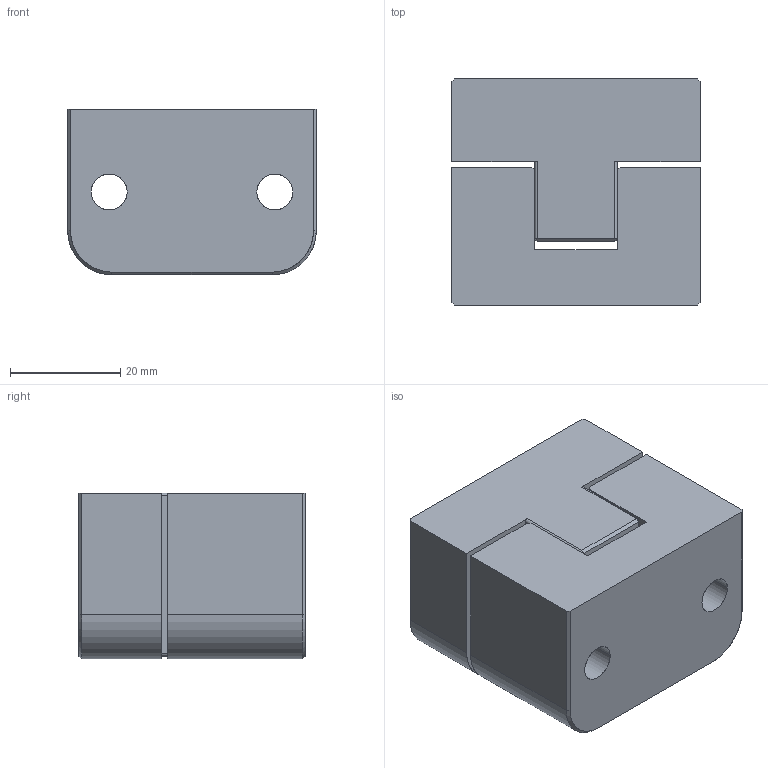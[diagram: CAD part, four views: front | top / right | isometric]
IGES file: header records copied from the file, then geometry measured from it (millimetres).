
Start section: START RECORD GO HERE.
Global section: file name: CL505045.igs; native system: DASSAULT SYSTEMES CATIA V5 R20 - www.3ds.com; preprocessor: CATIA Version 5 Release 20 ; author: Utente; organization: NB04-ASUS; date: 20200419.212205; units: millimetre
Bounding box: 45 x 41 x 30 mm (x, y, z)
Surface area: 15274 mm2 (no closed solid volume)
Topology: 0 solids, 0 shells, 152 faces, 612 edges, 608 vertices
Faces by surface type: revolution 80, plane 72
